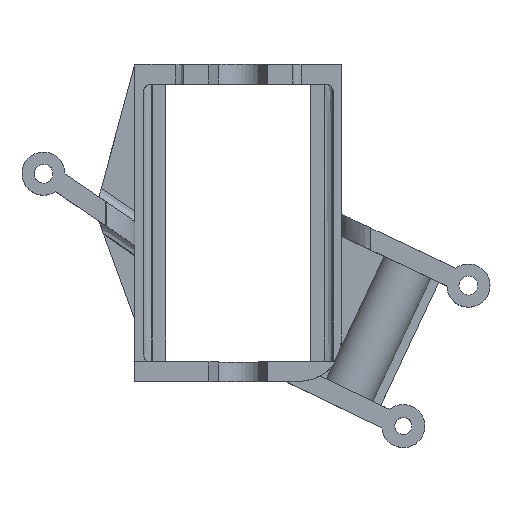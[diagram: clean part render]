
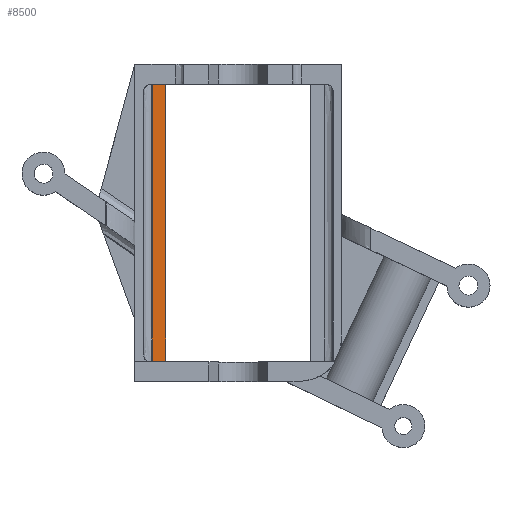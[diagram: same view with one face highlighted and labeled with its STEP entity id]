
A CAD part, top view. The second image highlights one B-rep face of the part: STEP entity #8500.
In plain terms, the highlighted planar face has unit normal (0, 0, 1).
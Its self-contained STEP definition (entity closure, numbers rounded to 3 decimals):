
#3266 = PLANE('',#3267);
#3267 = AXIS2_PLACEMENT_3D('',#3268,#3269,#3270);
#3268 = CARTESIAN_POINT('',(0.,-24.423,0.));
#3269 = DIRECTION('',(-0.,1.,-0.));
#3270 = DIRECTION('',(0.,0.,1.));
#8500 = ADVANCED_FACE('',(#8501),#8515,.T.);
#8501 = FACE_BOUND('',#8502,.T.);
#8502 = EDGE_LOOP('',(#8503,#8533,#8561,#8589));
#8503 = ORIENTED_EDGE('',*,*,#8504,.T.);
#8504 = EDGE_CURVE('',#8505,#8507,#8509,.T.);
#8505 = VERTEX_POINT('',#8506);
#8506 = CARTESIAN_POINT('',(218.264,-24.423,2.));
#8507 = VERTEX_POINT('',#8508);
#8508 = CARTESIAN_POINT('',(219.864,-24.423,2.));
#8509 = SURFACE_CURVE('',#8510,(#8514,#8526),.PCURVE_S1.);
#8510 = LINE('',#8511,#8512);
#8511 = CARTESIAN_POINT('',(219.064,-24.423,2.));
#8512 = VECTOR('',#8513,1.);
#8513 = DIRECTION('',(1.,-0.,-0.));
#8514 = PCURVE('',#8515,#8520);
#8515 = PLANE('',#8516);
#8516 = AXIS2_PLACEMENT_3D('',#8517,#8518,#8519);
#8517 = CARTESIAN_POINT('',(0.,0.,2.));
#8518 = DIRECTION('',(0.,0.,1.));
#8519 = DIRECTION('',(1.,0.,-0.));
#8520 = DEFINITIONAL_REPRESENTATION('',(#8521),#8525);
#8521 = LINE('',#8522,#8523);
#8522 = CARTESIAN_POINT('',(219.064,-24.423));
#8523 = VECTOR('',#8524,1.);
#8524 = DIRECTION('',(1.,-0.));
#8525 = ( GEOMETRIC_REPRESENTATION_CONTEXT(2) 
PARAMETRIC_REPRESENTATION_CONTEXT() REPRESENTATION_CONTEXT('2D SPACE',''
  ) );
#8526 = PCURVE('',#3266,#8527);
#8527 = DEFINITIONAL_REPRESENTATION('',(#8528),#8532);
#8528 = LINE('',#8529,#8530);
#8529 = CARTESIAN_POINT('',(2.,219.064));
#8530 = VECTOR('',#8531,1.);
#8531 = DIRECTION('',(0.,1.));
#8532 = ( GEOMETRIC_REPRESENTATION_CONTEXT(2) 
PARAMETRIC_REPRESENTATION_CONTEXT() REPRESENTATION_CONTEXT('2D SPACE',''
  ) );
#8533 = ORIENTED_EDGE('',*,*,#8534,.T.);
#8534 = EDGE_CURVE('',#8507,#8535,#8537,.T.);
#8535 = VERTEX_POINT('',#8536);
#8536 = CARTESIAN_POINT('',(219.864,7.777,2.));
#8537 = SURFACE_CURVE('',#8538,(#8542,#8549),.PCURVE_S1.);
#8538 = LINE('',#8539,#8540);
#8539 = CARTESIAN_POINT('',(219.864,-8.323,2.));
#8540 = VECTOR('',#8541,1.);
#8541 = DIRECTION('',(-0.,1.,0.));
#8542 = PCURVE('',#8515,#8543);
#8543 = DEFINITIONAL_REPRESENTATION('',(#8544),#8548);
#8544 = LINE('',#8545,#8546);
#8545 = CARTESIAN_POINT('',(219.864,-8.323));
#8546 = VECTOR('',#8547,1.);
#8547 = DIRECTION('',(0.,1.));
#8548 = ( GEOMETRIC_REPRESENTATION_CONTEXT(2) 
PARAMETRIC_REPRESENTATION_CONTEXT() REPRESENTATION_CONTEXT('2D SPACE',''
  ) );
#8549 = PCURVE('',#8550,#8555);
#8550 = PLANE('',#8551);
#8551 = AXIS2_PLACEMENT_3D('',#8552,#8553,#8554);
#8552 = CARTESIAN_POINT('',(219.864,0.,-0.));
#8553 = DIRECTION('',(1.,0.,-0.));
#8554 = DIRECTION('',(0.,0.,1.));
#8555 = DEFINITIONAL_REPRESENTATION('',(#8556),#8560);
#8556 = LINE('',#8557,#8558);
#8557 = CARTESIAN_POINT('',(2.,8.323));
#8558 = VECTOR('',#8559,1.);
#8559 = DIRECTION('',(0.,-1.));
#8560 = ( GEOMETRIC_REPRESENTATION_CONTEXT(2) 
PARAMETRIC_REPRESENTATION_CONTEXT() REPRESENTATION_CONTEXT('2D SPACE',''
  ) );
#8561 = ORIENTED_EDGE('',*,*,#8562,.T.);
#8562 = EDGE_CURVE('',#8535,#8563,#8565,.T.);
#8563 = VERTEX_POINT('',#8564);
#8564 = CARTESIAN_POINT('',(218.264,7.777,2.));
#8565 = SURFACE_CURVE('',#8566,(#8570,#8577),.PCURVE_S1.);
#8566 = LINE('',#8567,#8568);
#8567 = CARTESIAN_POINT('',(219.064,7.777,2.));
#8568 = VECTOR('',#8569,1.);
#8569 = DIRECTION('',(-1.,-0.,0.));
#8570 = PCURVE('',#8515,#8571);
#8571 = DEFINITIONAL_REPRESENTATION('',(#8572),#8576);
#8572 = LINE('',#8573,#8574);
#8573 = CARTESIAN_POINT('',(219.064,7.777));
#8574 = VECTOR('',#8575,1.);
#8575 = DIRECTION('',(-1.,0.));
#8576 = ( GEOMETRIC_REPRESENTATION_CONTEXT(2) 
PARAMETRIC_REPRESENTATION_CONTEXT() REPRESENTATION_CONTEXT('2D SPACE',''
  ) );
#8577 = PCURVE('',#8578,#8583);
#8578 = PLANE('',#8579);
#8579 = AXIS2_PLACEMENT_3D('',#8580,#8581,#8582);
#8580 = CARTESIAN_POINT('',(-0.,7.777,-0.));
#8581 = DIRECTION('',(0.,-1.,0.));
#8582 = DIRECTION('',(0.,-0.,-1.));
#8583 = DEFINITIONAL_REPRESENTATION('',(#8584),#8588);
#8584 = LINE('',#8585,#8586);
#8585 = CARTESIAN_POINT('',(-2.,219.064));
#8586 = VECTOR('',#8587,1.);
#8587 = DIRECTION('',(0.,-1.));
#8588 = ( GEOMETRIC_REPRESENTATION_CONTEXT(2) 
PARAMETRIC_REPRESENTATION_CONTEXT() REPRESENTATION_CONTEXT('2D SPACE',''
  ) );
#8589 = ORIENTED_EDGE('',*,*,#8590,.T.);
#8590 = EDGE_CURVE('',#8563,#8505,#8591,.T.);
#8591 = SURFACE_CURVE('',#8592,(#8597,#8605),.PCURVE_S1.);
#8592 = B_SPLINE_CURVE_WITH_KNOTS('',3,(#8593,#8594,#8595,#8596),
  .UNSPECIFIED.,.F.,.F.,(4,4),(0.,1.),.PIECEWISE_BEZIER_KNOTS.);
#8593 = CARTESIAN_POINT('',(218.264,7.777,2.));
#8594 = CARTESIAN_POINT('',(218.264,-2.957,2.));
#8595 = CARTESIAN_POINT('',(218.264,-13.69,2.));
#8596 = CARTESIAN_POINT('',(218.264,-24.423,2.));
#8597 = PCURVE('',#8515,#8598);
#8598 = DEFINITIONAL_REPRESENTATION('',(#8599),#8604);
#8599 = B_SPLINE_CURVE_WITH_KNOTS('',3,(#8600,#8601,#8602,#8603),
  .UNSPECIFIED.,.F.,.F.,(4,4),(0.,1.),.PIECEWISE_BEZIER_KNOTS.);
#8600 = CARTESIAN_POINT('',(218.264,7.777));
#8601 = CARTESIAN_POINT('',(218.264,-2.957));
#8602 = CARTESIAN_POINT('',(218.264,-13.69));
#8603 = CARTESIAN_POINT('',(218.264,-24.423));
#8604 = ( GEOMETRIC_REPRESENTATION_CONTEXT(2) 
PARAMETRIC_REPRESENTATION_CONTEXT() REPRESENTATION_CONTEXT('2D SPACE',''
  ) );
#8605 = PCURVE('',#8606,#8611);
#8606 = PLANE('',#8607);
#8607 = AXIS2_PLACEMENT_3D('',#8608,#8609,#8610);
#8608 = CARTESIAN_POINT('',(218.248,7.777,
    2.));
#8609 = DIRECTION('',(0.008,0.,
    1.));
#8610 = DIRECTION('',(1.,0.,-0.008));
#8611 = DEFINITIONAL_REPRESENTATION('',(#8612),#8617);
#8612 = B_SPLINE_CURVE_WITH_KNOTS('',3,(#8613,#8614,#8615,#8616),
  .UNSPECIFIED.,.F.,.F.,(4,4),(0.,1.),.PIECEWISE_BEZIER_KNOTS.);
#8613 = CARTESIAN_POINT('',(0.016,0.));
#8614 = CARTESIAN_POINT('',(0.016,-10.733));
#8615 = CARTESIAN_POINT('',(0.016,-21.467));
#8616 = CARTESIAN_POINT('',(0.016,-32.2));
#8617 = ( GEOMETRIC_REPRESENTATION_CONTEXT(2) 
PARAMETRIC_REPRESENTATION_CONTEXT() REPRESENTATION_CONTEXT('2D SPACE',''
  ) );
